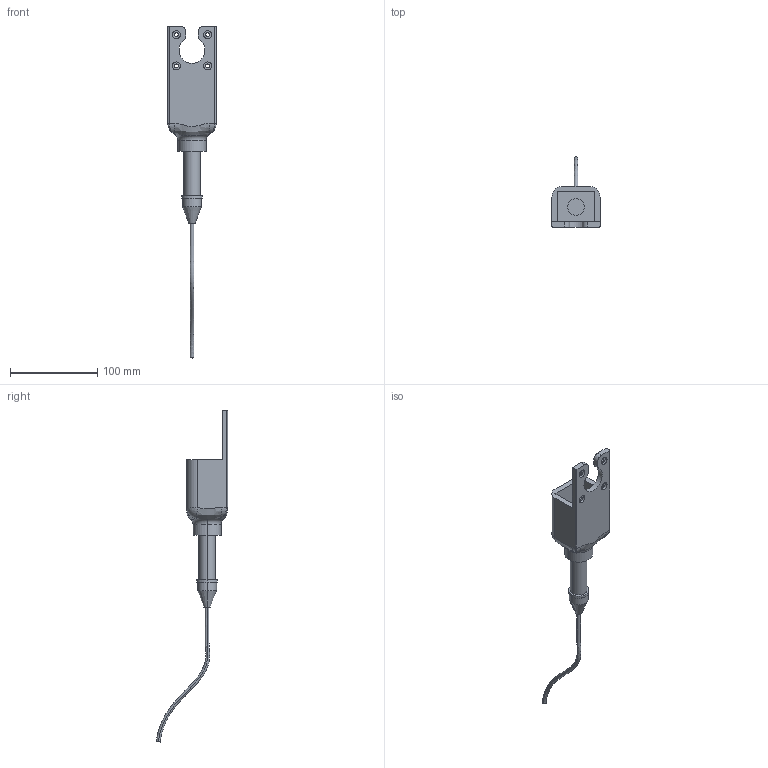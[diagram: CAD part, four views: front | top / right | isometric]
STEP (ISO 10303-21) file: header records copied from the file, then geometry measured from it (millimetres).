
FILE_DESCRIPTION (( 'STEP AP214' ), '1' );
FILE_NAME ('LSCB1000.STEP', '2024-08-12T14:23:24', ( '' ), ( '' ), 'SwSTEP 2.0', 'SolidWorks 2022', '' );
FILE_SCHEMA (( 'AUTOMOTIVE_DESIGN' ));
Length unit declared in the file: inch
Products named in the file (1): LSCB1000
Bounding box: 55.24 x 81.61 x 380.94 mm (x, y, z)
Volume: 124904.1 mm3; surface area: 43106 mm2
Topology: 2 solids, 2 shells, 84 faces, 200 edges, 125 vertices
Faces by surface type: cylinder 41, plane 24, bspline 12, sphere 3, torus 2, cone 2
Entity records: 3565 total; most frequent: CARTESIAN_POINT 1424, DIRECTION 408, ORIENTED_EDGE 396, EDGE_CURVE 198, AXIS2_PLACEMENT_3D 165, VERTEX_POINT 125, EDGE_LOOP 103, CIRCLE 92
